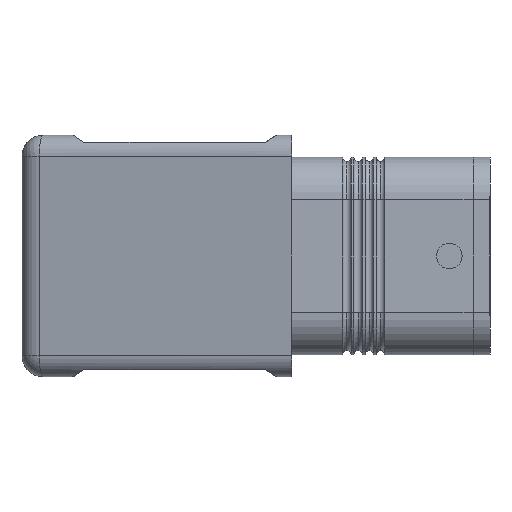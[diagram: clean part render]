
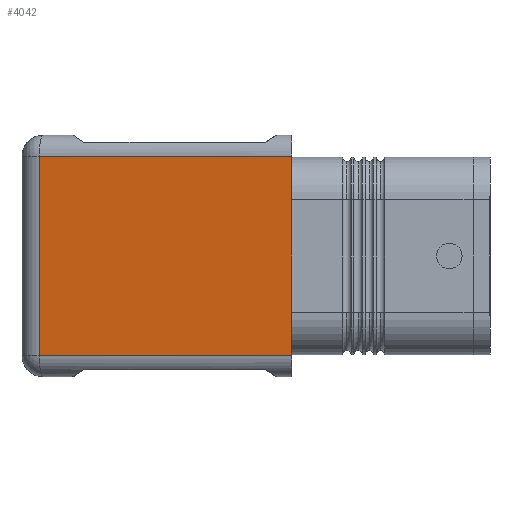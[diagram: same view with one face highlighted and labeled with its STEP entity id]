
A CAD part, left-side view. The second image highlights one B-rep face of the part: STEP entity #4042.
In plain terms, the highlighted planar face has unit normal (-0.983, 0.182, 0).
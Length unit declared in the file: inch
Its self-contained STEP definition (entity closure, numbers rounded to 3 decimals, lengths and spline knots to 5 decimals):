
#1201 = CARTESIAN_POINT ( 'NONE',  ( -1.29646, 2.5578, -0.5875 ) ) ;
#2255 = DIRECTION ( 'NONE',  ( 0., 0., -1. ) ) ;
#2256 = VECTOR ( 'NONE', #2255, 39.37008 ) ;
#2257 = CARTESIAN_POINT ( 'NONE',  ( -1.29646, 2.5578, -0.5875 ) ) ;
#2258 = LINE ( 'NONE', #2257, #2256 ) ;
#2347 = DIRECTION ( 'NONE',  ( -0.182, -0.983, 0. ) ) ;
#2348 = VECTOR ( 'NONE', #2347, 39.37008 ) ;
#2349 = CARTESIAN_POINT ( 'NONE',  ( -1.22798, 2.92691, -0.5875 ) ) ;
#2350 = LINE ( 'NONE', #2349, #2348 ) ;
#2351 = CARTESIAN_POINT ( 'NONE',  ( -1.5725, 1.07, 0.5875 ) ) ;
#2357 = CARTESIAN_POINT ( 'NONE',  ( -1.5725, 1.07, -0.5875 ) ) ;
#2358 = CARTESIAN_POINT ( 'NONE',  ( -1.5725, 1.07, 0.3325 ) ) ;
#2359 = DIRECTION ( 'NONE',  ( 0., 0., 1. ) ) ;
#2360 = VECTOR ( 'NONE', #2359, 39.37008 ) ;
#2361 = CARTESIAN_POINT ( 'NONE',  ( -1.5725, 1.07, -0.7125 ) ) ;
#2362 = LINE ( 'NONE', #2361, #2360 ) ;
#2383 = DIRECTION ( 'NONE',  ( 0.182, 0.983, 0. ) ) ;
#2384 = DIRECTION ( 'NONE',  ( 0.983, -0.182, 0. ) ) ;
#2385 = CARTESIAN_POINT ( 'NONE',  ( -1.22798, 2.92691, -0.7125 ) ) ;
#2386 = AXIS2_PLACEMENT_3D ( 'NONE', #2385, #2384, #2383 ) ;
#2387 = FACE_OUTER_BOUND ( 'NONE', #4043, .T. ) ;
#2393 = PLANE ( 'NONE',  #2386 ) ;
#2436 = DIRECTION ( 'NONE',  ( 0.182, 0.983, 0. ) ) ;
#2437 = VECTOR ( 'NONE', #2436, 39.37008 ) ;
#2438 = CARTESIAN_POINT ( 'NONE',  ( -1.22798, 2.92691, 0.5875 ) ) ;
#2439 = LINE ( 'NONE', #2438, #2437 ) ;
#2441 = DIRECTION ( 'NONE',  ( 0., 0., -1. ) ) ;
#2442 = VECTOR ( 'NONE', #2441, 39.37008 ) ;
#2443 = CARTESIAN_POINT ( 'NONE',  ( -1.5725, 1.07, -0.3325 ) ) ;
#2444 = LINE ( 'NONE', #2443, #2442 ) ;
#2575 = CARTESIAN_POINT ( 'NONE',  ( -1.5725, 1.07, -0.3325 ) ) ;
#2576 = DIRECTION ( 'NONE',  ( 0., 0., 1. ) ) ;
#2655 = VECTOR ( 'NONE', #2576, 39.37008 ) ;
#2656 = CARTESIAN_POINT ( 'NONE',  ( -1.5725, 1.07, -0.7125 ) ) ;
#2662 = LINE ( 'NONE', #2656, #2655 ) ;
#2851 = CARTESIAN_POINT ( 'NONE',  ( -1.29646, 2.5578, 0.5875 ) ) ;
#3111 = VERTEX_POINT ( 'NONE', #2851 ) ;
#3336 = VERTEX_POINT ( 'NONE', #1201 ) ;
#3886 = EDGE_CURVE ( 'NONE', #3111, #3336, #2258, .T. ) ;
#3972 = EDGE_CURVE ( 'NONE', #3994, #4100, #2444, .T. ) ;
#3975 = EDGE_CURVE ( 'NONE', #4007, #3111, #2439, .T. ) ;
#3991 = EDGE_CURVE ( 'NONE', #3994, #4007, #2362, .T. ) ;
#3994 = VERTEX_POINT ( 'NONE', #2358 ) ;
#4001 = VERTEX_POINT ( 'NONE', #2357 ) ;
#4007 = VERTEX_POINT ( 'NONE', #2351 ) ;
#4008 = EDGE_CURVE ( 'NONE', #3336, #4001, #2350, .T. ) ;
#4042 = ADVANCED_FACE ( 'NONE', ( #2387 ), #2393, .F. ) ;
#4043 = EDGE_LOOP ( 'NONE', ( #4104, #4044, #4077, #4078, #4076, #4052 ) ) ;
#4044 = ORIENTED_EDGE ( 'NONE', *, *, #3886, .T. ) ;
#4052 = ORIENTED_EDGE ( 'NONE', *, *, #3991, .T. ) ;
#4076 = ORIENTED_EDGE ( 'NONE', *, *, #3972, .F. ) ;
#4077 = ORIENTED_EDGE ( 'NONE', *, *, #4008, .T. ) ;
#4078 = ORIENTED_EDGE ( 'NONE', *, *, #4099, .T. ) ;
#4099 = EDGE_CURVE ( 'NONE', #4001, #4100, #2662, .T. ) ;
#4100 = VERTEX_POINT ( 'NONE', #2575 ) ;
#4104 = ORIENTED_EDGE ( 'NONE', *, *, #3975, .T. ) ;
